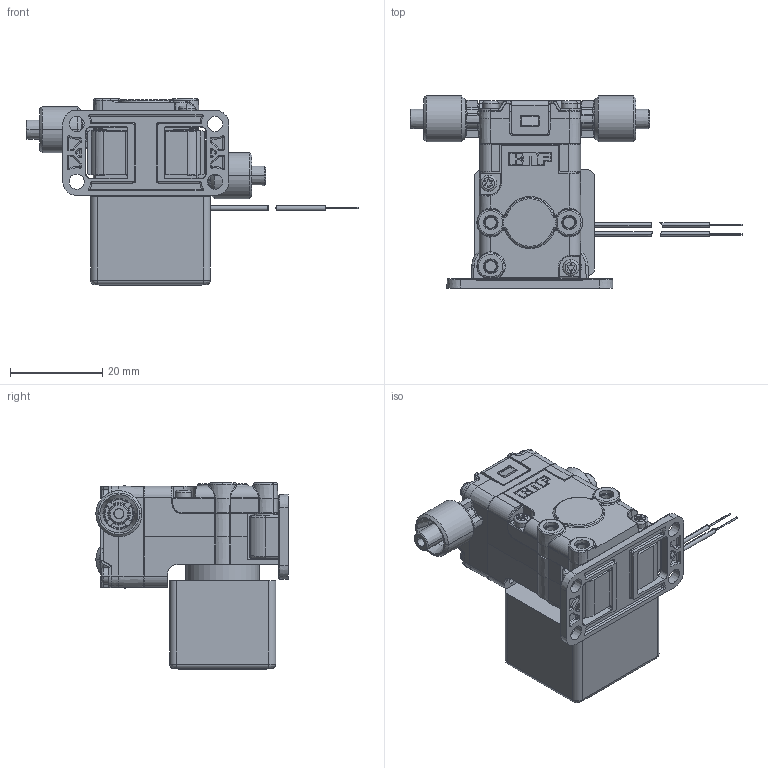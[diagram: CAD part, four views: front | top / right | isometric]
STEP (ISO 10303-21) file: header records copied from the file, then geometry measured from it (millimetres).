
FILE_DESCRIPTION((''),'2;1');
FILE_NAME('CAD1150855_ASM','2025-10-20T14:59:28',('UHermann'),('KNF Flodos AG, 6210 Sursee, Switzerland'),'CREO PARAMETRIC BY PTC INC, 2024401','CREO PARAMETRIC BY PTC INC, 2024401','');
FILE_SCHEMA(('AP242_MANAGED_MODEL_BASED_3D_ENGINEERING_MIM_LF { 1 0 10303 442 1 1 4 }'));
Products named in the file (4): BODY; HEAD; CLIP; CAD1150855_ASM
Assembly tree (3 placements, depth 2):
  CAD1150855_ASM
    BODY
    HEAD
    CLIP
Bounding box: 72 x 41.7 x 40.4 mm (x, y, z)
Volume: 29125.5 mm3; surface area: 13436.7 mm2
Topology: 5 solids, 5 shells, 2285 faces, 5695 edges, 3466 vertices
Faces by surface type: cylinder 734, plane 728, bspline 341, torus 206, cone 188, sphere 84, extrusion 4
Entity records: 123632 total; most frequent: CARTESIAN_POINT 36816, ORIENTED_EDGE 11364, DIRECTION 10609, PRESENTATION_STYLE_ASSIGNMENT 7996, STYLED_ITEM 7996, CURVE_STYLE 5693, EDGE_CURVE 5682, AXIS2_PLACEMENT_3D 4037
